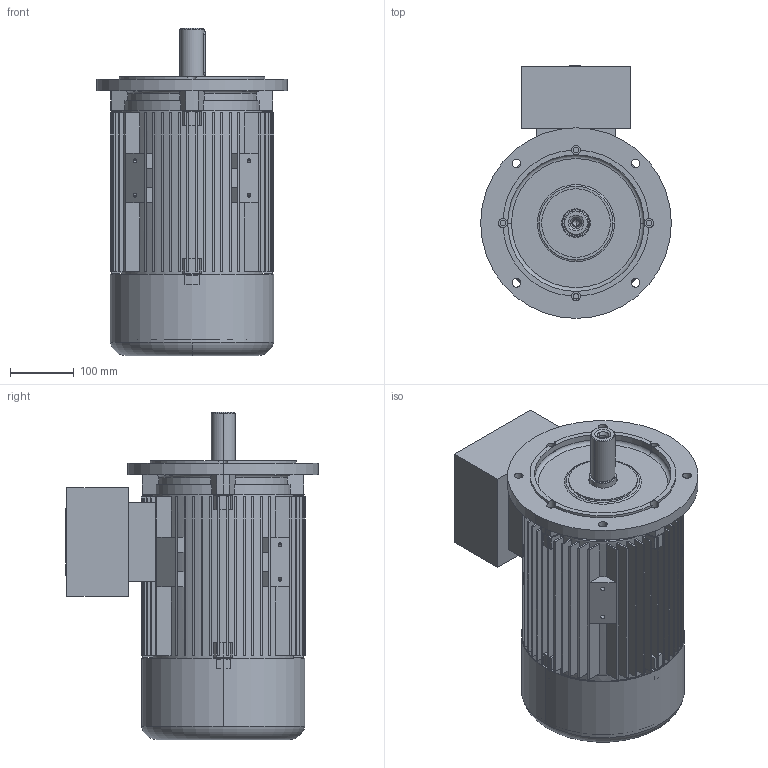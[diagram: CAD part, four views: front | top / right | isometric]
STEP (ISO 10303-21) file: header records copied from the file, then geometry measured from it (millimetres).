
FILE_DESCRIPTION (( 'STEP AP214' ), '1' );
FILE_NAME ('20.17503-B 7AT 132S&M B5 Exde STANDK.STEP', '2018-05-10T13:04:58', ( '' ), ( '' ), 'SwSTEP 2.0', 'SolidWorks 2017', '' );
FILE_SCHEMA (( 'AUTOMOTIVE_DESIGN' ));
Length unit declared in the file: millimetre
Products named in the file (1): 20.17503-B 7AT 132S&M B5 Exde STANDK
Bounding box: 300 x 398 x 515 mm (x, y, z)
Volume: 8920440.1 mm3; surface area: 1664809.3 mm2
Topology: 6 solids, 10 shells, 721 faces, 1928 edges, 1265 vertices
Faces by surface type: plane 459, cylinder 201, cone 32, torus 20, bspline 9
Entity records: 23750 total; most frequent: CARTESIAN_POINT 4250, DIRECTION 3962, ORIENTED_EDGE 3820, EDGE_CURVE 1910, AXIS2_PLACEMENT_3D 1377, VERTEX_POINT 1265, LINE 1208, VECTOR 1208
